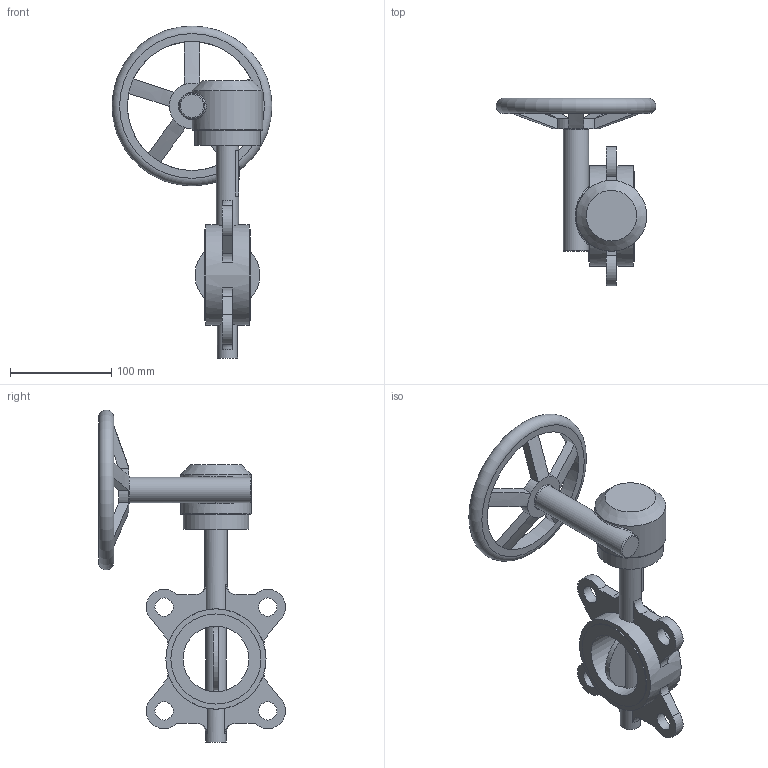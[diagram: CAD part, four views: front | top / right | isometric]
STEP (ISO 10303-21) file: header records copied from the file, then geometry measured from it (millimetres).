
FILE_DESCRIPTION(('STEP AP203'), '1');
FILE_NAME('青蜮铕 017W.Y_DN65_疱潴牝铕', '', ('UNSPECIFIED'), ('UNSPECIFIED'), 'ASCON STEP Converter 1.6', 'ASCON Math Kernel', '');
FILE_SCHEMA(('CONFIG_CONTROL_DESIGN'));
Length unit declared in the file: millimetre
Bounding box: 158 x 184.7 x 328 mm (x, y, z)
Volume: 735780.9 mm3; surface area: 129774.9 mm2
Topology: 1 solids, 1 shells, 138 faces, 345 edges, 218 vertices
Faces by surface type: plane 64, cylinder 45, cone 19, torus 8, bspline 2
Full cylindrical faces by diameter (mm): 6.647 x4, 8 x4, 18 x4, 20 x2, 22 x1, 25 x1, 65 x2, 70 x1, 89 x2, 99 x1, 127.563 x1
Entity records: 7017 total; most frequent: CARTESIAN_POINT 2684, DIRECTION 678, ORIENTED_EDGE 606, EDGE_CURVE 303, AXIS2_PLACEMENT_3D 282, VERTEX_POINT 214, EDGE_LOOP 207, CIRCLE 145
